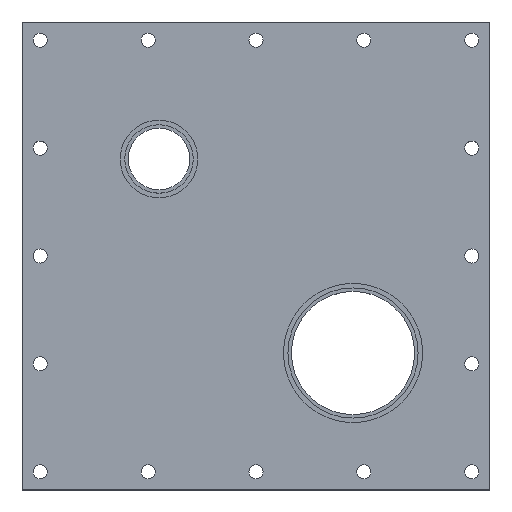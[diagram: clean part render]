
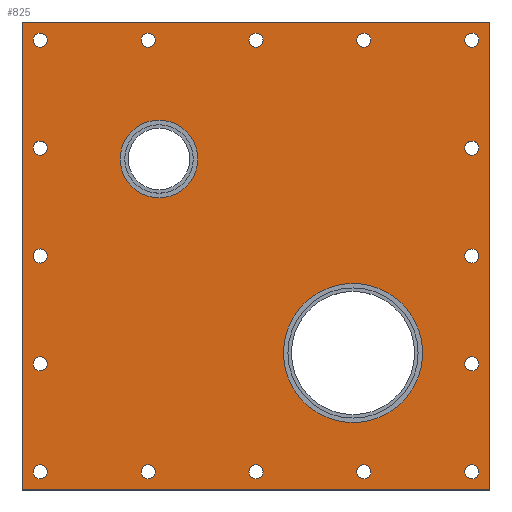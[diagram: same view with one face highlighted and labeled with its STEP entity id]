
A CAD part, top view. The second image highlights one B-rep face of the part: STEP entity #825.
In plain terms, the highlighted planar face has unit normal (0, 0, 1).
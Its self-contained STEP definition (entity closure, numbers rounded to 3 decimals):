
#33 = VERTEX_POINT('',#34);
#34 = CARTESIAN_POINT('',(0.027,-6.164,10.));
#39 = EDGE_CURVE('',#33,#33,#40,.T.);
#40 = CIRCLE('',#41,3.1);
#41 = AXIS2_PLACEMENT_3D('',#42,#43,#44);
#42 = CARTESIAN_POINT('',(-3.073,-6.164,10.));
#43 = DIRECTION('',(0.,0.,-1.));
#44 = DIRECTION('',(1.,0.,0.));
#74 = VERTEX_POINT('',#75);
#75 = CARTESIAN_POINT('',(94.527,-6.164,10.));
#80 = EDGE_CURVE('',#74,#74,#81,.T.);
#81 = CIRCLE('',#82,3.1);
#82 = AXIS2_PLACEMENT_3D('',#83,#84,#85);
#83 = CARTESIAN_POINT('',(91.427,-6.164,10.));
#84 = DIRECTION('',(0.,0.,-1.));
#85 = DIRECTION('',(1.,0.,0.));
#115 = VERTEX_POINT('',#116);
#116 = CARTESIAN_POINT('',(141.777,-6.164,10.));
#121 = EDGE_CURVE('',#115,#115,#122,.T.);
#122 = CIRCLE('',#123,3.1);
#123 = AXIS2_PLACEMENT_3D('',#124,#125,#126);
#124 = CARTESIAN_POINT('',(138.677,-6.164,10.));
#125 = DIRECTION('',(0.,0.,-1.));
#126 = DIRECTION('',(1.,0.,0.));
#156 = VERTEX_POINT('',#157);
#157 = CARTESIAN_POINT('',(189.027,-6.164,10.));
#162 = EDGE_CURVE('',#156,#156,#163,.T.);
#163 = CIRCLE('',#164,3.1);
#164 = AXIS2_PLACEMENT_3D('',#165,#166,#167);
#165 = CARTESIAN_POINT('',(185.927,-6.164,10.));
#166 = DIRECTION('',(0.,0.,-1.));
#167 = DIRECTION('',(1.,0.,0.));
#197 = VERTEX_POINT('',#198);
#198 = CARTESIAN_POINT('',(189.027,41.086,10.));
#203 = EDGE_CURVE('',#197,#197,#204,.T.);
#204 = CIRCLE('',#205,3.1);
#205 = AXIS2_PLACEMENT_3D('',#206,#207,#208);
#206 = CARTESIAN_POINT('',(185.927,41.086,10.));
#207 = DIRECTION('',(0.,0.,-1.));
#208 = DIRECTION('',(1.,0.,0.));
#238 = VERTEX_POINT('',#239);
#239 = CARTESIAN_POINT('',(189.027,88.336,10.));
#244 = EDGE_CURVE('',#238,#238,#245,.T.);
#245 = CIRCLE('',#246,3.1);
#246 = AXIS2_PLACEMENT_3D('',#247,#248,#249);
#247 = CARTESIAN_POINT('',(185.927,88.336,10.));
#248 = DIRECTION('',(0.,0.,-1.));
#249 = DIRECTION('',(1.,0.,0.));
#279 = VERTEX_POINT('',#280);
#280 = CARTESIAN_POINT('',(189.027,135.586,10.));
#285 = EDGE_CURVE('',#279,#279,#286,.T.);
#286 = CIRCLE('',#287,3.1);
#287 = AXIS2_PLACEMENT_3D('',#288,#289,#290);
#288 = CARTESIAN_POINT('',(185.927,135.586,10.));
#289 = DIRECTION('',(0.,0.,-1.));
#290 = DIRECTION('',(1.,0.,0.));
#320 = VERTEX_POINT('',#321);
#321 = CARTESIAN_POINT('',(189.027,182.836,10.));
#326 = EDGE_CURVE('',#320,#320,#327,.T.);
#327 = CIRCLE('',#328,3.1);
#328 = AXIS2_PLACEMENT_3D('',#329,#330,#331);
#329 = CARTESIAN_POINT('',(185.927,182.836,10.));
#330 = DIRECTION('',(0.,0.,-1.));
#331 = DIRECTION('',(1.,0.,0.));
#361 = VERTEX_POINT('',#362);
#362 = CARTESIAN_POINT('',(141.777,182.836,10.));
#367 = EDGE_CURVE('',#361,#361,#368,.T.);
#368 = CIRCLE('',#369,3.1);
#369 = AXIS2_PLACEMENT_3D('',#370,#371,#372);
#370 = CARTESIAN_POINT('',(138.677,182.836,10.));
#371 = DIRECTION('',(0.,0.,-1.));
#372 = DIRECTION('',(1.,0.,0.));
#402 = VERTEX_POINT('',#403);
#403 = CARTESIAN_POINT('',(94.527,182.836,10.));
#408 = EDGE_CURVE('',#402,#402,#409,.T.);
#409 = CIRCLE('',#410,3.1);
#410 = AXIS2_PLACEMENT_3D('',#411,#412,#413);
#411 = CARTESIAN_POINT('',(91.427,182.836,10.));
#412 = DIRECTION('',(0.,0.,-1.));
#413 = DIRECTION('',(1.,0.,0.));
#443 = VERTEX_POINT('',#444);
#444 = CARTESIAN_POINT('',(47.277,182.836,10.));
#449 = EDGE_CURVE('',#443,#443,#450,.T.);
#450 = CIRCLE('',#451,3.1);
#451 = AXIS2_PLACEMENT_3D('',#452,#453,#454);
#452 = CARTESIAN_POINT('',(44.177,182.836,10.));
#453 = DIRECTION('',(0.,0.,-1.));
#454 = DIRECTION('',(1.,0.,0.));
#484 = VERTEX_POINT('',#485);
#485 = CARTESIAN_POINT('',(0.027,182.836,10.));
#490 = EDGE_CURVE('',#484,#484,#491,.T.);
#491 = CIRCLE('',#492,3.1);
#492 = AXIS2_PLACEMENT_3D('',#493,#494,#495);
#493 = CARTESIAN_POINT('',(-3.073,182.836,10.));
#494 = DIRECTION('',(0.,0.,-1.));
#495 = DIRECTION('',(1.,0.,0.));
#525 = VERTEX_POINT('',#526);
#526 = CARTESIAN_POINT('',(0.027,135.586,10.));
#531 = EDGE_CURVE('',#525,#525,#532,.T.);
#532 = CIRCLE('',#533,3.1);
#533 = AXIS2_PLACEMENT_3D('',#534,#535,#536);
#534 = CARTESIAN_POINT('',(-3.073,135.586,10.));
#535 = DIRECTION('',(0.,0.,-1.));
#536 = DIRECTION('',(1.,0.,0.));
#566 = VERTEX_POINT('',#567);
#567 = CARTESIAN_POINT('',(0.027,88.336,10.));
#572 = EDGE_CURVE('',#566,#566,#573,.T.);
#573 = CIRCLE('',#574,3.1);
#574 = AXIS2_PLACEMENT_3D('',#575,#576,#577);
#575 = CARTESIAN_POINT('',(-3.073,88.336,10.));
#576 = DIRECTION('',(0.,0.,-1.));
#577 = DIRECTION('',(1.,0.,0.));
#607 = VERTEX_POINT('',#608);
#608 = CARTESIAN_POINT('',(0.027,41.086,10.));
#613 = EDGE_CURVE('',#607,#607,#614,.T.);
#614 = CIRCLE('',#615,3.1);
#615 = AXIS2_PLACEMENT_3D('',#616,#617,#618);
#616 = CARTESIAN_POINT('',(-3.073,41.086,10.));
#617 = DIRECTION('',(0.,0.,-1.));
#618 = DIRECTION('',(1.,0.,0.));
#648 = VERTEX_POINT('',#649);
#649 = CARTESIAN_POINT('',(47.277,-6.164,10.));
#654 = EDGE_CURVE('',#648,#648,#655,.T.);
#655 = CIRCLE('',#656,3.1);
#656 = AXIS2_PLACEMENT_3D('',#657,#658,#659);
#657 = CARTESIAN_POINT('',(44.177,-6.164,10.));
#658 = DIRECTION('',(0.,0.,-1.));
#659 = DIRECTION('',(1.,0.,0.));
#719 = VERTEX_POINT('',#720);
#720 = CARTESIAN_POINT('',(164.427,45.836,10.));
#725 = EDGE_CURVE('',#719,#719,#726,.T.);
#726 = CIRCLE('',#727,30.5);
#727 = AXIS2_PLACEMENT_3D('',#728,#729,#730);
#728 = CARTESIAN_POINT('',(133.927,45.836,10.));
#729 = DIRECTION('',(0.,0.,-1.));
#730 = DIRECTION('',(-1.,0.,0.));
#795 = VERTEX_POINT('',#796);
#796 = CARTESIAN_POINT('',(65.927,130.836,10.));
#801 = EDGE_CURVE('',#795,#795,#802,.T.);
#802 = CIRCLE('',#803,17.);
#803 = AXIS2_PLACEMENT_3D('',#804,#805,#806);
#804 = CARTESIAN_POINT('',(48.927,130.836,10.));
#805 = DIRECTION('',(0.,0.,-1.));
#806 = DIRECTION('',(-1.,0.,0.));
#825 = ADVANCED_FACE('',(#826,#860,#863,#866,#869,#872,#875,#878,#881,
    #884,#887,#890,#893,#896,#899,#902,#905,#908,#911),#914,.T.);
#826 = FACE_BOUND('',#827,.T.);
#827 = EDGE_LOOP('',(#828,#838,#846,#854));
#828 = ORIENTED_EDGE('',*,*,#829,.F.);
#829 = EDGE_CURVE('',#830,#832,#834,.T.);
#830 = VERTEX_POINT('',#831);
#831 = CARTESIAN_POINT('',(193.927,190.836,10.));
#832 = VERTEX_POINT('',#833);
#833 = CARTESIAN_POINT('',(193.927,-14.164,10.));
#834 = LINE('',#835,#836);
#835 = CARTESIAN_POINT('',(193.927,190.836,10.));
#836 = VECTOR('',#837,1.);
#837 = DIRECTION('',(0.,-1.,0.));
#838 = ORIENTED_EDGE('',*,*,#839,.F.);
#839 = EDGE_CURVE('',#840,#830,#842,.T.);
#840 = VERTEX_POINT('',#841);
#841 = CARTESIAN_POINT('',(-11.073,190.836,10.));
#842 = LINE('',#843,#844);
#843 = CARTESIAN_POINT('',(-11.073,190.836,10.));
#844 = VECTOR('',#845,1.);
#845 = DIRECTION('',(1.,0.,0.));
#846 = ORIENTED_EDGE('',*,*,#847,.F.);
#847 = EDGE_CURVE('',#848,#840,#850,.T.);
#848 = VERTEX_POINT('',#849);
#849 = CARTESIAN_POINT('',(-11.073,-14.164,10.));
#850 = LINE('',#851,#852);
#851 = CARTESIAN_POINT('',(-11.073,-14.164,10.));
#852 = VECTOR('',#853,1.);
#853 = DIRECTION('',(0.,1.,0.));
#854 = ORIENTED_EDGE('',*,*,#855,.F.);
#855 = EDGE_CURVE('',#832,#848,#856,.T.);
#856 = LINE('',#857,#858);
#857 = CARTESIAN_POINT('',(193.927,-14.164,10.));
#858 = VECTOR('',#859,1.);
#859 = DIRECTION('',(-1.,0.,0.));
#860 = FACE_BOUND('',#861,.T.);
#861 = EDGE_LOOP('',(#862));
#862 = ORIENTED_EDGE('',*,*,#39,.T.);
#863 = FACE_BOUND('',#864,.T.);
#864 = EDGE_LOOP('',(#865));
#865 = ORIENTED_EDGE('',*,*,#80,.T.);
#866 = FACE_BOUND('',#867,.T.);
#867 = EDGE_LOOP('',(#868));
#868 = ORIENTED_EDGE('',*,*,#121,.T.);
#869 = FACE_BOUND('',#870,.T.);
#870 = EDGE_LOOP('',(#871));
#871 = ORIENTED_EDGE('',*,*,#162,.T.);
#872 = FACE_BOUND('',#873,.T.);
#873 = EDGE_LOOP('',(#874));
#874 = ORIENTED_EDGE('',*,*,#203,.T.);
#875 = FACE_BOUND('',#876,.T.);
#876 = EDGE_LOOP('',(#877));
#877 = ORIENTED_EDGE('',*,*,#244,.T.);
#878 = FACE_BOUND('',#879,.T.);
#879 = EDGE_LOOP('',(#880));
#880 = ORIENTED_EDGE('',*,*,#285,.T.);
#881 = FACE_BOUND('',#882,.T.);
#882 = EDGE_LOOP('',(#883));
#883 = ORIENTED_EDGE('',*,*,#326,.T.);
#884 = FACE_BOUND('',#885,.T.);
#885 = EDGE_LOOP('',(#886));
#886 = ORIENTED_EDGE('',*,*,#367,.T.);
#887 = FACE_BOUND('',#888,.T.);
#888 = EDGE_LOOP('',(#889));
#889 = ORIENTED_EDGE('',*,*,#408,.T.);
#890 = FACE_BOUND('',#891,.T.);
#891 = EDGE_LOOP('',(#892));
#892 = ORIENTED_EDGE('',*,*,#449,.T.);
#893 = FACE_BOUND('',#894,.T.);
#894 = EDGE_LOOP('',(#895));
#895 = ORIENTED_EDGE('',*,*,#490,.T.);
#896 = FACE_BOUND('',#897,.T.);
#897 = EDGE_LOOP('',(#898));
#898 = ORIENTED_EDGE('',*,*,#531,.T.);
#899 = FACE_BOUND('',#900,.T.);
#900 = EDGE_LOOP('',(#901));
#901 = ORIENTED_EDGE('',*,*,#572,.T.);
#902 = FACE_BOUND('',#903,.T.);
#903 = EDGE_LOOP('',(#904));
#904 = ORIENTED_EDGE('',*,*,#613,.T.);
#905 = FACE_BOUND('',#906,.T.);
#906 = EDGE_LOOP('',(#907));
#907 = ORIENTED_EDGE('',*,*,#654,.T.);
#908 = FACE_BOUND('',#909,.T.);
#909 = EDGE_LOOP('',(#910));
#910 = ORIENTED_EDGE('',*,*,#725,.T.);
#911 = FACE_BOUND('',#912,.T.);
#912 = EDGE_LOOP('',(#913));
#913 = ORIENTED_EDGE('',*,*,#801,.T.);
#914 = PLANE('',#915);
#915 = AXIS2_PLACEMENT_3D('',#916,#917,#918);
#916 = CARTESIAN_POINT('',(91.427,88.336,10.));
#917 = DIRECTION('',(0.,0.,1.));
#918 = DIRECTION('',(1.,0.,-0.));
